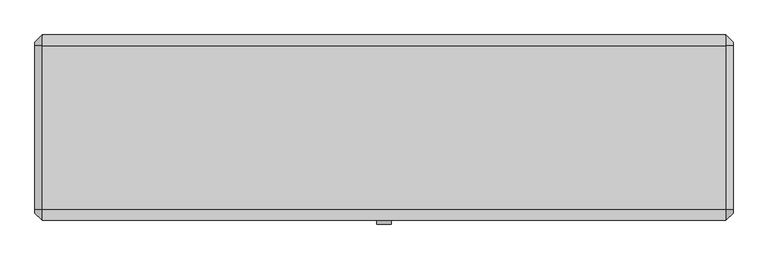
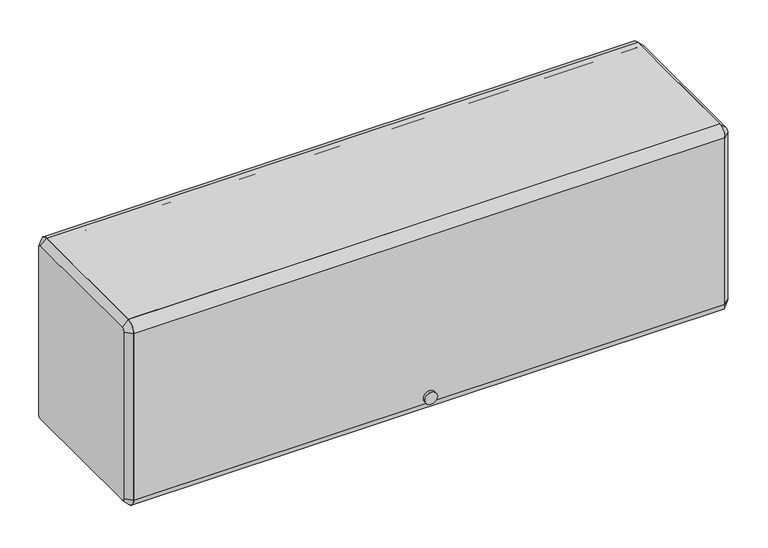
"""IFC4 building model written with IfcOpenShell, lengths in millimetres: furniture geometry."""

import ifcopenshell
import ifcopenshell.guid

model = None  # the IFC model being written
_history = None  # IfcOwnerHistory: only IFC2X3 demands one
_inside = {}  # id of a spatial element -> (the spatial element, [elements in it])
_under = {}  # id of a project, library or spatial element -> (it, [spatial elements below it])
_declared = {}  # id of a project -> (the project, [libraries it declares])
_typed = {}  # id of a type object -> (the type object, [elements of that type])
_made_of = {}  # id of a material, layer set ... -> (it, [elements and type objects made of it])


def new_model(schema):
    """Start an empty IFC model of exactly this schema.

    Asked for "IFC4X3", IfcOpenShell would pick the latest addendum, in which some entities
    have other attributes; the version numbers below select the first issue.
    IFC2X3 requires an IfcOwnerHistory on every rooted entity: one is made here for all.
    """
    global model, _history
    if schema == "IFC4X3":
        model = ifcopenshell.file(schema_version=(4, 3, 0, 0))
    else:
        model = ifcopenshell.file(schema=schema)
    _inside.clear()
    _under.clear()
    _declared.clear()
    _typed.clear()
    _made_of.clear()
    _history = None
    if model.schema == "IFC2X3":
        org = make("IfcOrganization", Name="unknown")
        user = make(
            "IfcPersonAndOrganization",
            ThePerson=make("IfcPerson", FamilyName="unknown"),
            TheOrganization=org,
        )
        app = make(
            "IfcApplication",
            ApplicationDeveloper=org,
            Version="unknown",
            ApplicationFullName="unknown",
            ApplicationIdentifier="unknown",
        )
        _history = make(
            "IfcOwnerHistory",
            OwningUser=user,
            OwningApplication=app,
            ChangeAction="ADDED",
            CreationDate=0,
        )
    return model


def make(cls, **values):
    """One entity of the class cls with the attributes given. An attribute that is None is left unset."""
    return model.create_entity(
        cls, **{name: value for name, value in values.items() if value is not None}
    )


def rooted(cls, **values):
    """An entity with a GlobalId (a new one), such as an element, a storey or a relation."""
    return make(cls, GlobalId=ifcopenshell.guid.new(), OwnerHistory=_history, **values)


def si_unit(unit_type, name, prefix=None):
    """IfcSIUnit, for example si_unit("LENGTHUNIT", "METRE", prefix="MILLI")."""
    return make("IfcSIUnit", UnitType=unit_type, Prefix=prefix, Name=name)


def assignment(units):
    """IfcUnitAssignment: the units of a project."""
    return None if units is None else make("IfcUnitAssignment", Units=units)


def point(xyz):
    """IfcCartesianPoint."""
    return None if xyz is None else make("IfcCartesianPoint", Coordinates=xyz)


def direction(xyz):
    """IfcDirection."""
    return None if xyz is None else make("IfcDirection", DirectionRatios=xyz)


def frame(location, z_axis=None, x_axis=None):
    """IfcAxis2Placement3D, a coordinate frame: its origin and axes. An axis left out is left unset."""
    return make(
        "IfcAxis2Placement3D",
        Location=point(location),
        Axis=direction(z_axis),
        RefDirection=direction(x_axis),
    )


def frame_2d(location, x_axis=None):
    """IfcAxis2Placement2D, a coordinate frame in the plane: its origin and x axis."""
    return make(
        "IfcAxis2Placement2D", Location=point(location), RefDirection=direction(x_axis)
    )


def origin():
    """The frame at (0, 0, 0) with its axes left unset."""
    return frame((0.0, 0.0, 0.0))


def place(relative_to, where):
    """IfcLocalPlacement: puts the frame where relative to a parent placement (None: the world)."""
    return make(
        "IfcLocalPlacement", PlacementRelTo=relative_to, RelativePlacement=where
    )


def context(
    kind, dimensions, precision=None, world=None, true_north=None, identifier=None
):
    """IfcGeometricRepresentationContext, for example the 3D "Model" context."""
    return make(
        "IfcGeometricRepresentationContext",
        ContextIdentifier=identifier,
        ContextType=kind,
        CoordinateSpaceDimension=dimensions,
        Precision=precision,
        WorldCoordinateSystem=world,
        TrueNorth=true_north,
    )


def project(units=None, contexts=None):
    """IfcProject with its units and contexts."""
    return rooted(
        "IfcProject",
        Name="project",
        RepresentationContexts=contexts,
        UnitsInContext=assignment(units),
    )


def spatial(cls, under=None, at=None, **own):
    """A site, building, storey or space (cls), placed at a placement, below another one or the project."""
    s = rooted(cls, ObjectPlacement=at, **own)
    if under is not None:
        _under.setdefault(under.id(), (under, []))[1].append(s)
    return s


def polyline(points):
    """IfcPolyline through the points."""
    return make("IfcPolyline", Points=[point(p) for p in points])


def circle_curve(where, radius):
    """IfcCircle in the frame where."""
    return make("IfcCircle", Position=where, Radius=radius)


def trimmed(basis, trim1, trim2, sense, master):
    """IfcTrimmedCurve: the piece of a basis curve between two trims."""
    return make(
        "IfcTrimmedCurve",
        BasisCurve=basis,
        Trim1=trim1,
        Trim2=trim2,
        SenseAgreement=sense,
        MasterRepresentation=master,
    )


def segment(curve, same_sense, transition):
    """IfcCompositeCurveSegment."""
    return make(
        "IfcCompositeCurveSegment",
        Transition=transition,
        SameSense=same_sense,
        ParentCurve=curve,
    )


def composite_curve(segments, self_intersect=None):
    """IfcCompositeCurve: segments joined end to end."""
    return make("IfcCompositeCurve", Segments=segments, SelfIntersect=self_intersect)


def outline(outer, holes=None, kind="AREA"):
    """IfcArbitraryClosedProfileDef: a profile drawn as a closed curve; with holes, ...WithVoids."""
    if holes is None:
        return make("IfcArbitraryClosedProfileDef", ProfileType=kind, OuterCurve=outer)
    return make(
        "IfcArbitraryProfileDefWithVoids",
        ProfileType=kind,
        OuterCurve=outer,
        InnerCurves=holes,
    )


def extrude(swept, where, along, depth):
    """IfcExtrudedAreaSolid: the profile swept, set in the frame where, extruded along a direction by depth."""
    return make(
        "IfcExtrudedAreaSolid",
        SweptArea=swept,
        Position=where,
        ExtrudedDirection=direction(along),
        Depth=depth,
    )


def shape(context_of_items, identifier, shape_type, items):
    """IfcShapeRepresentation: the items that make up one representation, for example the "Body"."""
    return make(
        "IfcShapeRepresentation",
        ContextOfItems=context_of_items,
        RepresentationIdentifier=identifier,
        RepresentationType=shape_type,
        Items=items,
    )


def source(mapping_origin, context_of_items, identifier, shape_type, items):
    """IfcRepresentationMap: a shape defined once, which mapped items show again and again."""
    return make(
        "IfcRepresentationMap",
        MappingOrigin=mapping_origin,
        MappedRepresentation=shape(context_of_items, identifier, shape_type, items),
    )


def transform(
    local_origin,
    x_axis=None,
    y_axis=None,
    z_axis=None,
    scale=None,
    scale2=None,
    scale3=None,
    uniform=True,
):
    """IfcCartesianTransformationOperator3D, or its non-uniform kind. x_axis, y_axis, z_axis: its Axis1, 2, 3."""
    if uniform:
        return make(
            "IfcCartesianTransformationOperator3D",
            Axis1=direction(x_axis),
            Axis2=direction(y_axis),
            LocalOrigin=point(local_origin),
            Scale=scale,
            Axis3=direction(z_axis),
        )
    return make(
        "IfcCartesianTransformationOperator3DnonUniform",
        Axis1=direction(x_axis),
        Axis2=direction(y_axis),
        LocalOrigin=point(local_origin),
        Scale=scale,
        Axis3=direction(z_axis),
        Scale2=scale2,
        Scale3=scale3,
    )


def mapped(mapping_source, mapping_target):
    """IfcMappedItem: shows the shape of a source again, moved by a transform."""
    return make(
        "IfcMappedItem", MappingSource=mapping_source, MappingTarget=mapping_target
    )


def made_of(thing, what):
    """Note that an element or type object is made of a material, layer set ...; save() writes the relation."""
    if what is not None:
        _made_of.setdefault(what.id(), (what, []))[1].append(thing)
    return thing


def element(
    cls,
    number,
    at=None,
    inside=None,
    cuts=None,
    type_object=None,
    material=None,
    context=None,
    identifier="Body",
    shape_type=None,
    held_by="IfcProductDefinitionShape",
    body=None,
    shapes=None,
    **own,
):
    """One element of the class cls, such as IfcWall. Its Tag is "e" and its number.

    at: its placement. inside: the storey or other place that contains it. cuts: it is an
    opening in that element (IfcRelVoidsElement). A single representation is given by context,
    identifier, shape_type and body (its items); several are given by shapes. held_by: the class
    of the entity that holds the representations. save() writes the other relations.
    """
    e = rooted(cls, Tag="e%d" % number, ObjectPlacement=at, **own)
    if body is not None:
        shapes = [shape(context, identifier, shape_type, body)]
    if shapes is not None:
        e.Representation = make(held_by, Representations=shapes)
    if inside is not None:
        _inside.setdefault(inside.id(), (inside, []))[1].append(e)
    if cuts is not None:
        rooted(
            "IfcRelVoidsElement", RelatingBuildingElement=cuts, RelatedOpeningElement=e
        )
    if type_object is not None:
        _typed.setdefault(type_object.id(), (type_object, []))[1].append(e)
    return made_of(e, material)


def aggregate(whole, parts):
    """IfcRelAggregates: a whole, such as a stair, and the parts it consists of."""
    return rooted("IfcRelAggregates", RelatingObject=whole, RelatedObjects=parts)


def save(model, path):
    """Write the relations noted so far, then the file.

    IfcRelAggregates (storeys below a building ...), IfcRelContainedInSpatialStructure (elements
    in a storey), IfcRelDefinesByType, IfcRelAssociatesMaterial and IfcRelDeclares: one each for
    every whole, place, type object, material and project.
    """
    for whole, parts in _under.values():
        aggregate(whole, parts)
    for where, things in _inside.values():
        rooted(
            "IfcRelContainedInSpatialStructure",
            RelatedElements=things,
            RelatingStructure=where,
        )
    for kind, things in _typed.values():
        rooted("IfcRelDefinesByType", RelatedObjects=things, RelatingType=kind)
    for what, things in _made_of.values():
        rooted("IfcRelAssociatesMaterial", RelatedObjects=things, RelatingMaterial=what)
    for by, libraries in _declared.values():
        rooted("IfcRelDeclares", RelatingContext=by, RelatedDefinitions=libraries)
    model.write(path)


def plane_surface(at):
    """IfcPlane: the flat surface through the origin of the frame at, square to its z axis."""
    return make("IfcPlane", Position=at)


def revolved_surface(curve, axis_point, axis_direction):
    """IfcSurfaceOfRevolution: the curve turned about the line through axis_point along axis_direction."""
    return make(
        "IfcSurfaceOfRevolution",
        SweptCurve=make("IfcArbitraryOpenProfileDef", ProfileType="CURVE", Curve=curve),
        AxisPosition=make("IfcAxis1Placement", Location=point(axis_point), Axis=direction(axis_direction)),
    )


def advanced_brep(points, edges, surfaces, faces):
    """IfcAdvancedBrep: a solid bounded by faces that lie on surfaces and meet in shared edges.

    An edge is (start, end): straight between two places in points (the first is 0);
    or (start, end, curve); or (start, end, curve, False) where it runs against its curve.
    A face is (place in surfaces, loops), or (place, loops, False) where it looks against
    its surface's normal. A loop lists edges by number (the first is 1), with a minus sign
    where the edge is run from its end to its start. The first loop is the outer one.
    """
    corners = [point(p) for p in points]
    vertices = [make("IfcVertexPoint", VertexGeometry=c) for c in corners]
    made = []
    for start, end, *more in edges:
        made.append(
            make(
                "IfcEdgeCurve",
                EdgeStart=vertices[start],
                EdgeEnd=vertices[end],
                EdgeGeometry=more[0] if more else make("IfcPolyline", Points=[corners[start], corners[end]]),
                SameSense=more[1] if len(more) > 1 else True,
            )
        )
    hull = []
    for where, loops, *sense in faces:
        bounds = []
        for j, loop in enumerate(loops):
            ring = [make("IfcOrientedEdge", EdgeElement=made[abs(k) - 1], Orientation=k > 0) for k in loop]
            bounds.append(
                make(
                    "IfcFaceOuterBound" if j == 0 else "IfcFaceBound",
                    Bound=make("IfcEdgeLoop", EdgeList=ring),
                    Orientation=True,
                )
            )
        hull.append(make("IfcAdvancedFace", Bounds=bounds, FaceSurface=surfaces[where], SameSense=sense[0] if sense else True))
    return make("IfcAdvancedBrep", Outer=make("IfcClosedShell", CfsFaces=hull))


def furniture_c8d20b4e(model_context):
    return source(origin(), model_context, "Body", "SolidModel", [
        extrude(outline(composite_curve([segment(polyline([(-130.175, 1765.3), (-130.175, 1778.0), (155.575, 1778.0)]), True, "CONTINUOUS"), segment(trimmed(circle_curve(frame_2d((155.575, 1758.95)), 19.05), [point((155.575, 1778.0))], [point((174.625, 1758.95))], False, "CARTESIAN"), True, "CONTINUOUS"), segment(polyline([(174.625, 1758.95), (161.925, 1758.95)]), True, "CONTINUOUS"), segment(trimmed(circle_curve(frame_2d((155.575, 1758.95)), 6.35), [point((161.925, 1758.95))], [point((155.575, 1765.3))], True, "CARTESIAN"), True, "CONTINUOUS"), segment(polyline([(155.575, 1765.3), (-130.175, 1765.3)]), True, "CONTINUOUS")], self_intersect=False)), frame((-596.9, 0.0, 0.0), z_axis=(1.0, 0.0, 0.0), x_axis=(0.0, 1.0, 0.0)), (0.0, 0.0, 1.0), 1193.8),
        extrude(outline(composite_curve([segment(trimmed(circle_curve(frame_2d((-130.175, 1758.95)), 19.05), [point((-149.225, 1758.95))], [point((-130.175, 1778.0))], False, "CARTESIAN"), True, "CONTINUOUS"), segment(polyline([(-130.175, 1778.0), (-130.175, 1765.3)]), True, "CONTINUOUS"), segment(trimmed(circle_curve(frame_2d((-130.175, 1758.95)), 6.35), [point((-130.175, 1765.3))], [point((-136.525, 1758.95))], True, "CARTESIAN"), True, "CONTINUOUS"), segment(polyline([(-136.525, 1758.95), (-136.525, 1403.35)]), True, "CONTINUOUS"), segment(trimmed(circle_curve(frame_2d((-130.175, 1403.35)), 6.35), [point((-136.525, 1403.35))], [point((-130.175, 1397.0))], True, "CARTESIAN"), True, "CONTINUOUS"), segment(polyline([(-130.175, 1397.0), (-130.175, 1384.3)]), True, "CONTINUOUS"), segment(trimmed(circle_curve(frame_2d((-130.175, 1403.35)), 19.05), [point((-130.175, 1384.3))], [point((-149.225, 1403.35))], False, "CARTESIAN"), True, "CONTINUOUS"), segment(polyline([(-149.225, 1403.35), (-149.225, 1758.95)]), True, "CONTINUOUS")], self_intersect=False)), frame((-596.9, 0.0, 0.0), z_axis=(1.0, 0.0, 0.0), x_axis=(0.0, 1.0, 0.0)), (0.0, 0.0, 1.0), 1193.8),
        extrude(outline(polyline([(-130.175, 1422.4), (155.575, 1422.4), (155.575, 1460.5), (168.275, 1460.5), (168.275, 1457.325), (158.75, 1457.325), (158.75, 1419.225), (-127.0, 1419.225), (-127.0, 1400.175), (-130.175, 1400.175), (-130.175, 1422.4)])), frame((-596.9, 0.0, 0.0), z_axis=(1.0, 0.0, 0.0), x_axis=(0.0, 1.0, 0.0)), (0.0, 0.0, 1.0), 1193.8),
        advanced_brep(
        [(609.6, 155.575, 1765.3), (609.6, -130.175, 1765.3), (609.6, -136.525, 1758.95), (609.6, -136.525, 1403.35), (609.6, -130.175, 1397.0), (609.6, 155.575, 1397.0), (609.6, 161.925, 1403.35), (609.6, 161.925, 1758.95), (596.9, 155.575, 1778.0), (596.9, 174.625, 1758.95), (596.9, 174.625, 1403.35), (596.9, 155.575, 1384.3), (596.9, -130.175, 1384.3), (596.9, -149.225, 1403.35), (596.9, -149.225, 1758.95), (596.9, -130.175, 1778.0)],
        [
            (0, 1),
            (1, 2, circle_curve(frame((609.6, -130.175, 1758.95), z_axis=(1.0, 0.0, 0.0), x_axis=(0.0, 0.0, 1.0)), 6.35)),
            (2, 3),
            (3, 4, circle_curve(frame((609.6, -130.175, 1403.35), z_axis=(1.0, -2.339461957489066e-12, -2.3447910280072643e-12), x_axis=(-2.3394377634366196e-12, -1.0, 0.0)), 6.35)),
            (4, 5),
            (5, 6, circle_curve(frame((609.6, 155.575, 1403.35), z_axis=(1.0, -2.3128166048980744e-12, 2.3021584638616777e-12), x_axis=(2.3022265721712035e-12, 0.0, -1.0)), 6.35)),
            (6, 7),
            (7, 0, circle_curve(frame((609.6, 155.575, 1758.95), z_axis=(1.0, 0.0, 0.0), x_axis=(0.0, 1.0, 0.0)), 6.35)),
            (8, 9, circle_curve(frame((596.9, 155.575, 1758.95), z_axis=(-1.0, 0.0, 0.0), x_axis=(0.0, 1.0, 0.0)), 19.05)),
            (9, 10),
            (10, 11, circle_curve(frame((596.9, 155.575, 1403.35), z_axis=(-1.0, 2.3128166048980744e-12, -2.3021584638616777e-12), x_axis=(2.3022265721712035e-12, 0.0, -1.0)), 19.05)),
            (11, 12),
            (12, 13, circle_curve(frame((596.9, -130.175, 1403.35), z_axis=(-1.0, 2.339461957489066e-12, 2.3447910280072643e-12), x_axis=(-2.3394377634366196e-12, -1.0, 0.0)), 19.05)),
            (13, 14),
            (14, 15, circle_curve(frame((596.9, -130.175, 1758.95), z_axis=(-1.0, 0.0, 0.0), x_axis=(0.0, 0.0, 1.0)), 19.05)),
            (15, 8),
            (15, 1),
            (0, 8),
            (14, 2),
            (13, 3),
            (12, 4),
            (11, 5),
            (10, 6),
            (9, 7),
        ],
        [
            plane_surface(frame((609.6, 12.7, 1581.15), z_axis=(1.0, 0.0, 0.0), x_axis=(0.0, -1.0, 0.0))),
            plane_surface(frame((596.9, 12.7, 1581.15), z_axis=(-1.0, 0.0, 0.0), x_axis=(0.0, -1.0, 0.0))),
            plane_surface(frame((596.9, 12.7, 1778.0), z_axis=(0.7071067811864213, 0.0, 0.7071067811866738), x_axis=(0.0, -1.0, 0.0))),
            revolved_surface(polyline([(609.6, -130.175, 1765.3), (596.9, -130.175, 1778.0)]), (615.95, -130.175, 1758.95), (-1.0, 0.0, 0.0)),
            plane_surface(frame((596.9, -149.225, 1581.15), z_axis=(0.7071067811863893, -0.7071067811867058, 0.0), x_axis=(0.0, 0.0, -1.0))),
            revolved_surface(polyline([(609.6, -136.52499999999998, 1403.35), (596.8999999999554, -149.22500000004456, 1403.35)]), (615.95, -130.175, 1403.35), (-1.0, 2.339461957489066e-12, 2.3447910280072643e-12)),
            plane_surface(frame((596.9, 12.7, 1384.3), z_axis=(0.7071067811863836, 0.0, -0.7071067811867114), x_axis=(0.0, 1.0, 0.0))),
            revolved_surface(polyline([(609.6000000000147, 155.575, 1397.0000000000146), (596.8999999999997, 155.575, 1384.2999999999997)]), (615.95, 155.575, 1403.35), (-1.0, 2.3128166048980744e-12, -2.3021584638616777e-12)),
            plane_surface(frame((596.9, 174.625, 1581.15), z_axis=(0.7071067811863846, 0.7071067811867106, 0.0), x_axis=(0.0, 0.0, 1.0))),
            revolved_surface(polyline([(609.6, 161.92499999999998, 1758.95), (596.9, 174.625, 1758.95)]), (615.95, 155.575, 1758.95), (-1.0, 0.0, 0.0)),
        ],
        [
            (0, [[1, 2, 3, 4, 5, 6, 7, 8]]),
            (1, [[9, 10, 11, 12, 13, 14, 15, 16]]),
            (2, [[-16, 17, -1, 18]]),
            (3, [[-15, 19, -2, -17]]),
            (4, [[-14, 20, -3, -19]]),
            (5, [[-13, 21, -4, -20]]),
            (6, [[-12, 22, -5, -21]]),
            (7, [[-11, 23, -6, -22]]),
            (8, [[-10, 24, -7, -23]]),
            (9, [[-9, -18, -8, -24]]),
        ],
    ),
        advanced_brep(
        [(-609.6, -130.175, 1765.3), (-609.6, 155.575, 1765.3), (-609.6, 161.925, 1758.95), (-609.6, 161.925, 1403.35), (-609.6, 155.575, 1397.0), (-609.6, -130.175, 1397.0), (-609.6, -136.525, 1403.35), (-609.6, -136.525, 1758.95), (-596.9, -130.175, 1778.0), (-596.9, -149.225, 1758.95), (-596.9, -149.225, 1403.35), (-596.9, -130.175, 1384.3), (-596.9, 155.575, 1384.3), (-596.9, 174.625, 1403.35), (-596.9, 174.625, 1758.95), (-596.9, 155.575, 1778.0)],
        [
            (0, 1),
            (1, 2, circle_curve(frame((-609.6, 155.575, 1758.95), z_axis=(-1.0, -2.3341328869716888e-12, -2.238209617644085e-12), x_axis=(-2.2381667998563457e-12, 0.0, 1.0)), 6.35)),
            (2, 3),
            (3, 4, circle_curve(frame((-609.6, 155.575, 1403.35), z_axis=(-1.0, 0.0, 0.0), x_axis=(0.0, 1.0, 0.0)), 6.35)),
            (4, 5),
            (5, 6, circle_curve(frame((-609.6, -130.175, 1403.35), z_axis=(-1.0, 0.0, 0.0), x_axis=(0.0, 0.0, -1.0)), 6.35)),
            (6, 7),
            (7, 0, circle_curve(frame((-609.6, -130.175, 1758.95), z_axis=(-1.0, -2.3288038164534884e-12, 2.4087398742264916e-12), x_axis=(2.328761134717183e-12, -1.0, 0.0)), 6.35)),
            (8, 9, circle_curve(frame((-596.9, -130.175, 1758.95), z_axis=(1.0, 2.3288038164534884e-12, -2.4087398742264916e-12), x_axis=(2.328761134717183e-12, -1.0, 0.0)), 19.05)),
            (9, 10),
            (10, 11, circle_curve(frame((-596.9, -130.175, 1403.35), z_axis=(1.0, 0.0, 0.0), x_axis=(0.0, 0.0, -1.0)), 19.05)),
            (11, 12),
            (12, 13, circle_curve(frame((-596.9, 155.575, 1403.35), z_axis=(1.0, 0.0, 0.0), x_axis=(0.0, 1.0, 0.0)), 19.05)),
            (13, 14),
            (14, 15, circle_curve(frame((-596.9, 155.575, 1758.95), z_axis=(1.0, 2.3341328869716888e-12, 2.238209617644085e-12), x_axis=(-2.2381667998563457e-12, 0.0, 1.0)), 19.05)),
            (15, 8),
            (15, 1),
            (0, 8),
            (14, 2),
            (13, 3),
            (12, 4),
            (11, 5),
            (10, 6),
            (9, 7),
        ],
        [
            plane_surface(frame((-609.6, 12.7, 1581.15), z_axis=(-1.0, 0.0, 0.0), x_axis=(0.0, -1.0, 0.0))),
            plane_surface(frame((-596.9, 12.7, 1581.15), z_axis=(1.0, 0.0, 0.0), x_axis=(0.0, -1.0, 0.0))),
            plane_surface(frame((-596.9, 12.7, 1778.0), z_axis=(-0.7071067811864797, 0.0, 0.7071067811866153), x_axis=(0.0, 1.0, 0.0))),
            revolved_surface(polyline([(-609.6000000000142, 155.575, 1765.2999999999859), (-596.8999999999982, 155.575, 1778.0000000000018)]), (-615.95, 155.575, 1758.95), (1.0, 2.3341328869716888e-12, 2.238209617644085e-12)),
            plane_surface(frame((-596.9, 174.625, 1581.15), z_axis=(-0.7071067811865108, 0.7071067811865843, 0.0), x_axis=(0.0, 0.0, -1.0))),
            revolved_surface(polyline([(-609.6, 161.92499999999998, 1403.35), (-596.9, 174.625, 1403.35)]), (-615.95, 155.575, 1403.35), (1.0, 0.0, 0.0)),
            plane_surface(frame((-596.9, 12.7, 1384.3), z_axis=(-0.7071067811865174, 0.0, -0.7071067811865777), x_axis=(0.0, -1.0, 0.0))),
            revolved_surface(polyline([(-609.6, -130.175, 1397.0), (-596.9, -130.175, 1384.3)]), (-615.95, -130.175, 1403.35), (1.0, 0.0, 0.0)),
            plane_surface(frame((-596.9, -149.225, 1581.15), z_axis=(-0.7071067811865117, -0.7071067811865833, 0.0), x_axis=(0.0, 0.0, 1.0))),
            revolved_surface(polyline([(-609.6000000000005, -136.5249999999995, 1758.95), (-596.8999999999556, -149.22500000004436, 1758.95)]), (-615.95, -130.175, 1758.95), (1.0, 2.3288038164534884e-12, -2.4087398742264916e-12)),
        ],
        [
            (0, [[1, 2, 3, 4, 5, 6, 7, 8]]),
            (1, [[9, 10, 11, 12, 13, 14, 15, 16]]),
            (2, [[-16, 17, -1, 18]]),
            (3, [[-15, 19, -2, -17]]),
            (4, [[-14, 20, -3, -19]]),
            (5, [[-13, 21, -4, -20]]),
            (6, [[-12, 22, -5, -21]]),
            (7, [[-11, 23, -6, -22]]),
            (8, [[-10, 24, -7, -23]]),
            (9, [[-9, -18, -8, -24]]),
        ],
    ),
        extrude(outline(composite_curve([segment(trimmed(circle_curve(frame_2d((1416.0118906, 0.0201199)), 12.7253951), [point((1416.0118906, 12.745515))], [point((1416.0118906, -12.7052752))], False, "CARTESIAN"), True, "CONTINUOUS"), segment(trimmed(circle_curve(frame_2d((1416.0118906, 0.0201199)), 12.7253951), [point((1416.0118906, -12.7052752))], [point((1416.0118906, 12.745515))], False, "CARTESIAN"), True, "CONTINUOUS")], self_intersect=False)), frame((0.0, -155.575, 0.0), z_axis=(0.0, 1.0, 0.0), x_axis=(0.0, 0.0, 1.0)), (0.0, 0.0, 1.0), 6.35),
    ])


if __name__ == "__main__":
    model = new_model("IFC4")
    model_context = context("Model", 3, world=origin())
    ifc_project = project(units=[si_unit("LENGTHUNIT", "METRE", prefix="MILLI")], contexts=[model_context])
    site = spatial("IfcSite", under=ifc_project)
    building = spatial("IfcBuilding", under=site)
    placement = place(None, origin())
    furniture_shape = furniture_c8d20b4e(model_context)
    element("IfcFurniture", 1, ObjectType="HermanMiller_Ethospace_E3212_B-StyleFlipperDoorUnit : Ptd W/Lock 13\"D x 48\"W", at=placement, inside=building, context=model_context, shape_type="MappedRepresentation", body=[
        mapped(furniture_shape, transform((0.0, 0.0, 0.0), x_axis=(1.0, 0.0, 0.0), y_axis=(0.0, 1.0, 0.0), z_axis=(0.0, 0.0, 1.0))),
    ])
    save(model, "model.ifc")
